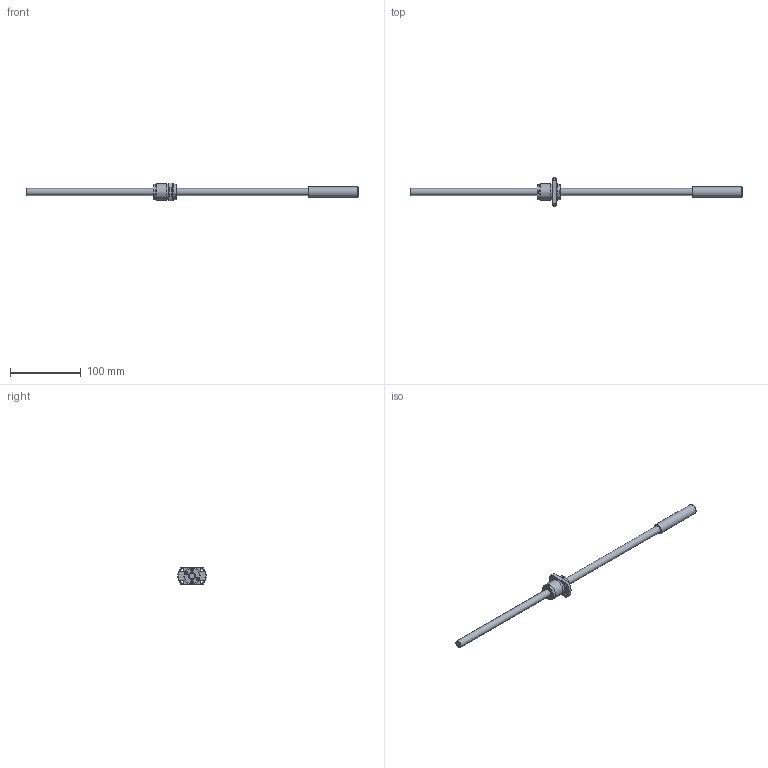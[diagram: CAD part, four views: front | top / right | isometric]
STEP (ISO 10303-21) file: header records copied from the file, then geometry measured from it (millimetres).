
FILE_DESCRIPTION(/* description */ ('STEP AP214'),/* implementation_level */ '2;1');
FILE_NAME(/* name */ 'SRT1015-396R470C7A0X(180None)',/* time_stamp */ '2026-08-06T15:11:24+02:00',/* author */ ('License CC BY-ND 4.0'),/* organization */ ('CADENAS'),/* preprocessor_version */ 'ST-DEVELOPER v20',/* originating_system */ 'PARTsolutions',/* authorisation */ ' ');
FILE_SCHEMA (('AUTOMOTIVE_DESIGN {1 0 10303 214 3 1 1}'));
Length unit declared in the file: millimetre
Products named in the file (3): SRT1015-396R470C7A0X(180None); SRT1015-396R470ACt7None70Shaft; SRT1015Nut
Assembly tree (2 placements, depth 2):
  SRT1015-396R470C7A0X(180None)
    SRT1015-396R470ACt7None70Shaft
    SRT1015Nut
Bounding box: 470 x 40 x 25 mm (x, y, z)
Volume: 55499.1 mm3; surface area: 21723.4 mm2
Topology: 2 solids, 2 shells, 138 faces, 333 edges, 220 vertices
Faces by surface type: plane 99, cylinder 30, cone 9
Full cylindrical faces by diameter (mm): 3.8 x8, 4.5 x4, 10 x2, 14.2 x1, 22.45 x1, 22.5 x2, 23 x2
Entity records: 3971 total; most frequent: CARTESIAN_POINT 689, DIRECTION 662, ORIENTED_EDGE 612, EDGE_CURVE 306, AXIS2_PLACEMENT_3D 223, VERTEX_POINT 218, LINE 216, VECTOR 216
